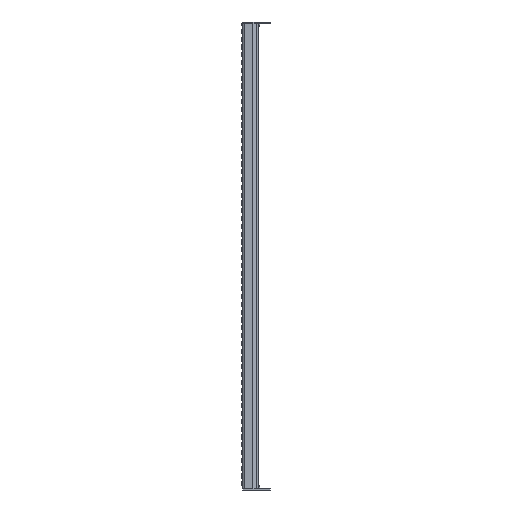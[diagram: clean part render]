
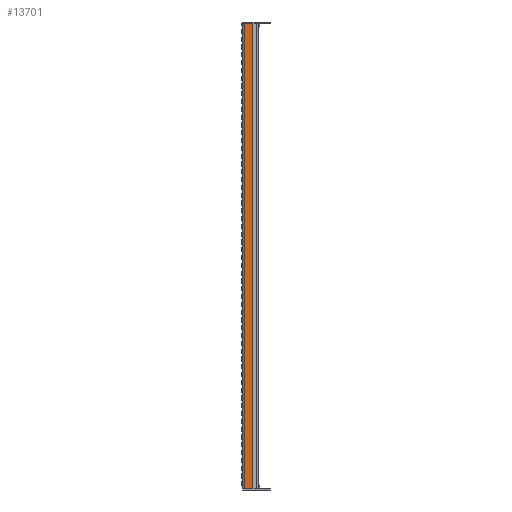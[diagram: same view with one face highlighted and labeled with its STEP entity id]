
A CAD part, left-side view. The second image highlights one B-rep face of the part: STEP entity #13701.
In plain terms, the highlighted planar face has unit normal (-1, 0, 0).
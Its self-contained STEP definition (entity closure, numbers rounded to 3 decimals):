
#2433=FACE_OUTER_BOUND('',#3630,.T.);
#3630=EDGE_LOOP('',(#12063,#12064,#12065,#12066));
#4623=LINE('',#26930,#5719);
#4634=LINE('',#26960,#5730);
#4644=LINE('',#26983,#5740);
#4651=LINE('',#26998,#5747);
#5719=VECTOR('',#18774,10.);
#5730=VECTOR('',#18799,10.);
#5740=VECTOR('',#18821,10.);
#5747=VECTOR('',#18840,10.);
#6998=VERTEX_POINT('',#26927);
#6999=VERTEX_POINT('',#26929);
#7011=VERTEX_POINT('',#26959);
#7018=VERTEX_POINT('',#26982);
#8693=EDGE_CURVE('',#6999,#6998,#4623,.T.);
#8708=EDGE_CURVE('',#6998,#7011,#4634,.T.);
#8720=EDGE_CURVE('',#7018,#6999,#4644,.T.);
#8728=EDGE_CURVE('',#7011,#7018,#4651,.T.);
#12063=ORIENTED_EDGE('',*,*,#8708,.T.);
#12064=ORIENTED_EDGE('',*,*,#8728,.T.);
#12065=ORIENTED_EDGE('',*,*,#8720,.T.);
#12066=ORIENTED_EDGE('',*,*,#8693,.T.);
#12823=PLANE('',#15216);
#13701=ADVANCED_FACE('',(#2433),#12823,.T.);
#15216=AXIS2_PLACEMENT_3D('',#26999,#18841,#18842);
#18774=DIRECTION('',(0.,1.,0.));
#18799=DIRECTION('',(0.,0.,-1.));
#18821=DIRECTION('',(0.,0.,1.));
#18840=DIRECTION('',(0.,-1.,0.));
#18841=DIRECTION('center_axis',(-1.,0.,0.));
#18842=DIRECTION('ref_axis',(0.,0.,1.));
#26927=CARTESIAN_POINT('',(0.,-3.25,1194.));
#26929=CARTESIAN_POINT('',(0.,-24.427,1194.));
#26930=CARTESIAN_POINT('',(0.,0.,1194.));
#26959=CARTESIAN_POINT('',(0.,-3.25,0.));
#26960=CARTESIAN_POINT('',(0.,-3.25,0.));
#26982=CARTESIAN_POINT('',(0.,-24.427,0.));
#26983=CARTESIAN_POINT('',(0.,-24.427,298.5));
#26998=CARTESIAN_POINT('',(0.,0.,0.));
#26999=CARTESIAN_POINT('Origin',(0.,-25.,0.));
